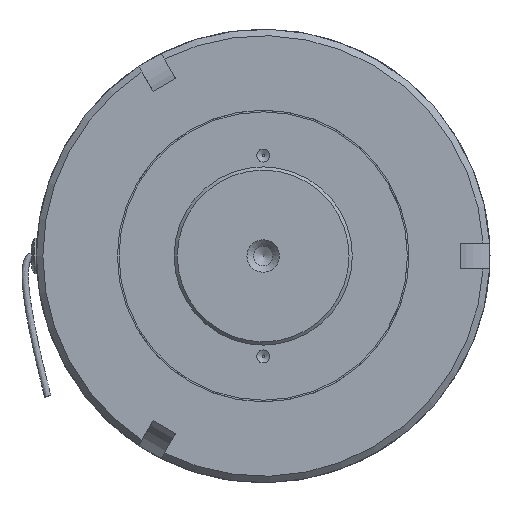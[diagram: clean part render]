
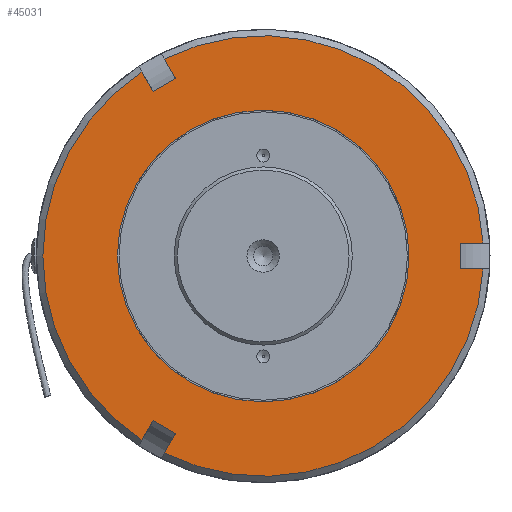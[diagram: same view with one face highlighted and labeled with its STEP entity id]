
A CAD part, left-side view. The second image highlights one B-rep face of the part: STEP entity #45031.
In plain terms, the highlighted planar face has unit normal (-1, 0, 0).
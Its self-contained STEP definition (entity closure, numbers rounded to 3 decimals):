
#2161=FACE_BOUND('',#10741,.T.);
#4940=CIRCLE('',#49480,68.);
#4941=CIRCLE('',#49481,68.);
#4942=CIRCLE('',#49482,68.);
#4943=CIRCLE('',#49483,45.);
#8514=FACE_OUTER_BOUND('',#10740,.T.);
#10740=EDGE_LOOP('',(#37620,#37621,#37622,#37623,#37624,#37625,#37626,#37627,
#37628,#37629,#37630,#37631));
#10741=EDGE_LOOP('',(#37632));
#13144=LINE('',#84211,#15336);
#13146=LINE('',#84224,#15338);
#13147=LINE('',#84233,#15339);
#13149=LINE('',#84241,#15341);
#13151=LINE('',#84254,#15343);
#13152=LINE('',#84263,#15344);
#13153=LINE('',#84269,#15345);
#13154=LINE('',#84271,#15346);
#13155=LINE('',#84273,#15347);
#15336=VECTOR('',#60032,6.882);
#15338=VECTOR('',#60036,6.882);
#15339=VECTOR('',#60041,8.);
#15341=VECTOR('',#60047,6.882);
#15343=VECTOR('',#60051,6.882);
#15344=VECTOR('',#60056,8.);
#15345=VECTOR('',#60063,6.882);
#15346=VECTOR('',#60064,8.);
#15347=VECTOR('',#60065,6.882);
#19651=VERTEX_POINT('',#84208);
#19652=VERTEX_POINT('',#84210);
#19655=VERTEX_POINT('',#84219);
#19656=VERTEX_POINT('',#84223);
#19659=VERTEX_POINT('',#84238);
#19660=VERTEX_POINT('',#84240);
#19663=VERTEX_POINT('',#84249);
#19664=VERTEX_POINT('',#84253);
#19665=VERTEX_POINT('',#84266);
#19666=VERTEX_POINT('',#84268);
#19667=VERTEX_POINT('',#84270);
#19668=VERTEX_POINT('',#84272);
#19669=VERTEX_POINT('',#84275);
#26193=EDGE_CURVE('',#19652,#19651,#13144,.T.);
#26197=EDGE_CURVE('',#19656,#19655,#13146,.T.);
#26200=EDGE_CURVE('',#19651,#19656,#13147,.T.);
#26203=EDGE_CURVE('',#19660,#19659,#13149,.T.);
#26207=EDGE_CURVE('',#19664,#19663,#13151,.T.);
#26210=EDGE_CURVE('',#19659,#19664,#13152,.T.);
#26211=EDGE_CURVE('',#19660,#19655,#4940,.T.);
#26212=EDGE_CURVE('',#19665,#19663,#4941,.T.);
#26213=EDGE_CURVE('',#19665,#19666,#13153,.T.);
#26214=EDGE_CURVE('',#19666,#19667,#13154,.T.);
#26215=EDGE_CURVE('',#19667,#19668,#13155,.T.);
#26216=EDGE_CURVE('',#19652,#19668,#4942,.T.);
#26217=EDGE_CURVE('',#19669,#19669,#4943,.T.);
#37620=ORIENTED_EDGE('',*,*,#26193,.T.);
#37621=ORIENTED_EDGE('',*,*,#26200,.T.);
#37622=ORIENTED_EDGE('',*,*,#26197,.T.);
#37623=ORIENTED_EDGE('',*,*,#26211,.F.);
#37624=ORIENTED_EDGE('',*,*,#26203,.T.);
#37625=ORIENTED_EDGE('',*,*,#26210,.T.);
#37626=ORIENTED_EDGE('',*,*,#26207,.T.);
#37627=ORIENTED_EDGE('',*,*,#26212,.F.);
#37628=ORIENTED_EDGE('',*,*,#26213,.T.);
#37629=ORIENTED_EDGE('',*,*,#26214,.T.);
#37630=ORIENTED_EDGE('',*,*,#26215,.T.);
#37631=ORIENTED_EDGE('',*,*,#26216,.F.);
#37632=ORIENTED_EDGE('',*,*,#26217,.T.);
#42173=PLANE('',#49479);
#45031=ADVANCED_FACE('',(#8514,#2161),#42173,.T.);
#49479=AXIS2_PLACEMENT_3D('',#84264,#60057,#60058);
#49480=AXIS2_PLACEMENT_3D('',#84265,#60059,#60060);
#49481=AXIS2_PLACEMENT_3D('',#84267,#60061,#60062);
#49482=AXIS2_PLACEMENT_3D('',#84274,#60066,#60067);
#49483=AXIS2_PLACEMENT_3D('',#84276,#60068,#60069);
#60032=DIRECTION('',(0.,-0.5,-0.866));
#60036=DIRECTION('',(0.,0.5,0.866));
#60041=DIRECTION('',(0.,0.866,-0.5));
#60047=DIRECTION('',(0.,-0.5,0.866));
#60051=DIRECTION('',(0.,0.5,-0.866));
#60056=DIRECTION('',(0.,-0.866,-0.5));
#60057=DIRECTION('center_axis',(-1.,0.,0.));
#60058=DIRECTION('ref_axis',(0.,0.,1.));
#60059=DIRECTION('center_axis',(1.,0.,0.));
#60060=DIRECTION('ref_axis',(0.,1.,0.));
#60061=DIRECTION('center_axis',(1.,0.,0.));
#60062=DIRECTION('ref_axis',(0.,1.,0.));
#60063=DIRECTION('',(0.,1.,0.));
#60064=DIRECTION('',(0.,0.,1.));
#60065=DIRECTION('',(0.,-1.,0.));
#60066=DIRECTION('center_axis',(1.,0.,0.));
#60067=DIRECTION('ref_axis',(0.,1.,0.));
#60068=DIRECTION('center_axis',(1.,0.,0.));
#60069=DIRECTION('ref_axis',(0.,1.,0.));
#84208=CARTESIAN_POINT('',(-34.,27.036,54.828));
#84210=CARTESIAN_POINT('',(-34.,30.477,60.788));
#84211=CARTESIAN_POINT('',(-34.,23.012,47.858));
#84219=CARTESIAN_POINT('',(-34.,37.405,56.788));
#84223=CARTESIAN_POINT('',(-34.,33.964,50.828));
#84224=CARTESIAN_POINT('',(-34.,29.94,43.858));
#84233=CARTESIAN_POINT('',(-34.,30.5,52.828));
#84238=CARTESIAN_POINT('',(-34.,33.964,-50.828));
#84240=CARTESIAN_POINT('',(-34.,37.405,-56.788));
#84241=CARTESIAN_POINT('',(-34.,29.94,-43.858));
#84249=CARTESIAN_POINT('',(-34.,30.477,-60.788));
#84253=CARTESIAN_POINT('',(-34.,27.036,-54.828));
#84254=CARTESIAN_POINT('',(-34.,23.012,-47.858));
#84263=CARTESIAN_POINT('',(-34.,30.5,-52.828));
#84264=CARTESIAN_POINT('Origin',(-34.,56.5,0.));
#84265=CARTESIAN_POINT('Origin',(-34.,0.,0.));
#84266=CARTESIAN_POINT('',(-34.,-67.882,-4.));
#84267=CARTESIAN_POINT('Origin',(-34.,0.,0.));
#84268=CARTESIAN_POINT('',(-34.,-61.,-4.));
#84269=CARTESIAN_POINT('',(-34.,-10.577,-4.));
#84270=CARTESIAN_POINT('',(-34.,-61.,4.));
#84271=CARTESIAN_POINT('',(-34.,-61.,0.));
#84272=CARTESIAN_POINT('',(-34.,-67.882,4.));
#84273=CARTESIAN_POINT('',(-34.,-10.577,4.));
#84274=CARTESIAN_POINT('Origin',(-34.,0.,0.));
#84275=CARTESIAN_POINT('',(-34.,45.,0.));
#84276=CARTESIAN_POINT('Origin',(-34.,0.,0.));
